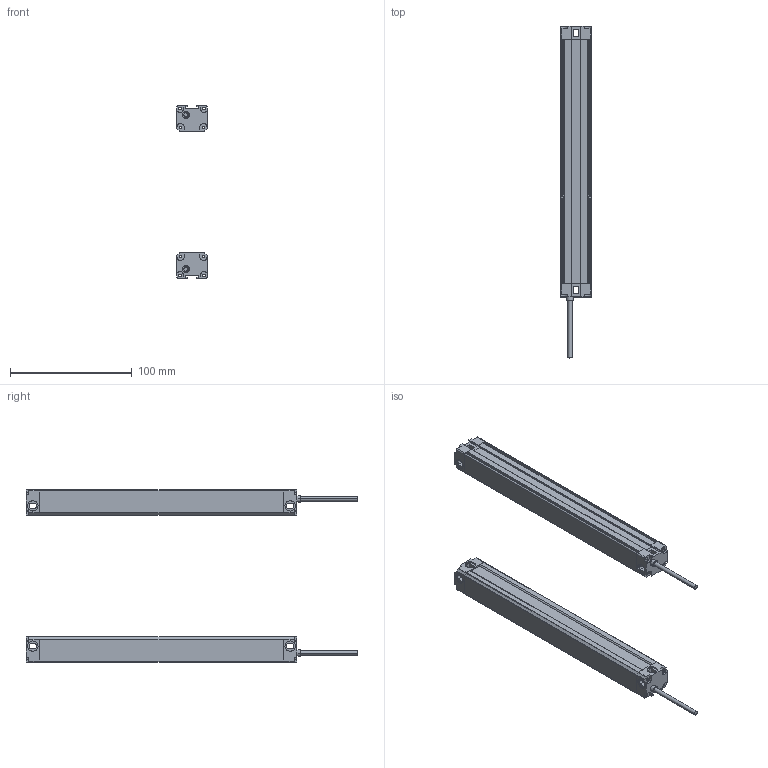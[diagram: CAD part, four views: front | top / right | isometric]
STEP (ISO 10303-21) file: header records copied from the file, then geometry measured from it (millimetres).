
FILE_DESCRIPTION (( 'STEP AP214' ), '1' );
FILE_NAME ('MTC1020.STEP', '2022-08-02T08:51:18', ( '' ), ( '' ), 'SwSTEP 2.0', 'SolidWorks 2018', '' );
FILE_SCHEMA (( 'AUTOMOTIVE_DESIGN' ));
Length unit declared in the file: millimetre
Products named in the file (5): MTC waike^MTC; P02^MTC; MTC1020; P01^MTC; 噩砃P02^MTC
Assembly tree (6 placements, depth 2):
  MTC1020
    MTC waike^MTC  x2
    P01^MTC  x2
    P02^MTC
    噩砃P02^MTC
Bounding box: 25 x 272 x 141.4 mm (x, y, z)
Volume: 80890.7 mm3; surface area: 104029.1 mm2
Topology: 8 solids, 8 shells, 480 faces, 1396 edges, 924 vertices
Faces by surface type: plane 272, cylinder 208
Entity records: 10886 total; most frequent: DIRECTION 1881, CARTESIAN_POINT 1878, ORIENTED_EDGE 1846, EDGE_CURVE 923, AXIS2_PLACEMENT_3D 637, VERTEX_POINT 610, LINE 607, VECTOR 607
